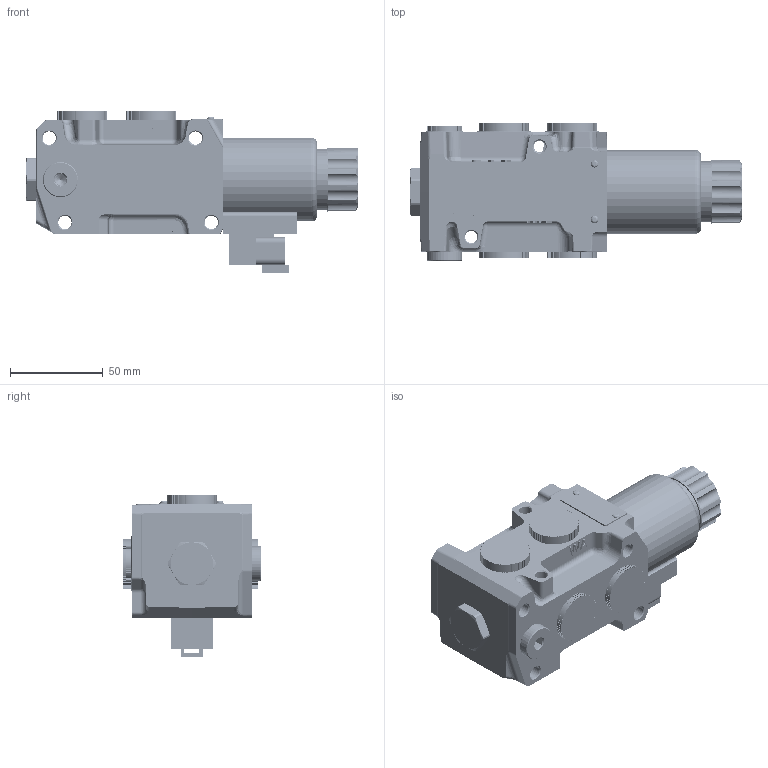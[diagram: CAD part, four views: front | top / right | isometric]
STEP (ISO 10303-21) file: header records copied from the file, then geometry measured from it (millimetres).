
FILE_DESCRIPTION(/* description */ (''),/* implementation_level */ '2;1');
FILE_NAME(/* name */ 'JYT-MH6WE6FS2.stp',/* time_stamp */ '2024-01-29T16:48:30+08:00',/* author */ (''),/* organization */ (''),/* preprocessor_version */ 'ST-DEVELOPER v16.7',/* originating_system */ 'SIEMENS PLM Software NX 12.0',/* authorisation */ '');
FILE_SCHEMA (('AUTOMOTIVE_DESIGN { 1 0 10303 214 3 1 1 1 }'));
Products named in the file (1): JYT-MH6WE6FS2
Bounding box: 179.2 x 74.7 x 87.4 mm (x, y, z)
Volume: 152042.5 mm3; surface area: 139149 mm2
Topology: 26 solids, 27 shells, 3143 faces, 8744 edges, 5730 vertices
Faces by surface type: plane 1766, cylinder 920, bspline 232, extrusion 114, cone 86, sphere 16, torus 9
Full cylindrical faces by diameter (mm): 1.5 x1, 1.8 x4, 2 x7, 2.2 x2, 2.4 x1, 3 x1, 4 x4, 5.2 x1, 5.6 x1, 6.7 x46, 7.2 x4, 8 x3, 8.1 x1, 8.7 x2, 9.6 x2, 11 x1, 11.093 x1, 11.1 x1, 11.4 x11, 11.5 x12, 12 x20, 14 x6, 14.3 x1, 14.5 x5, 16.2 x2, 17.4 x1, 18 x2, 18.4 x1, 18.6 x13, 18.9 x1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
Entity records: 176780 total; most frequent: CARTESIAN_POINT 101091, ORIENTED_EDGE 16470, DIRECTION 14114, EDGE_CURVE 8235, VECTOR 5572, VERTEX_POINT 5498, LINE 5458, AXIS2_PLACEMENT_3D 4271
